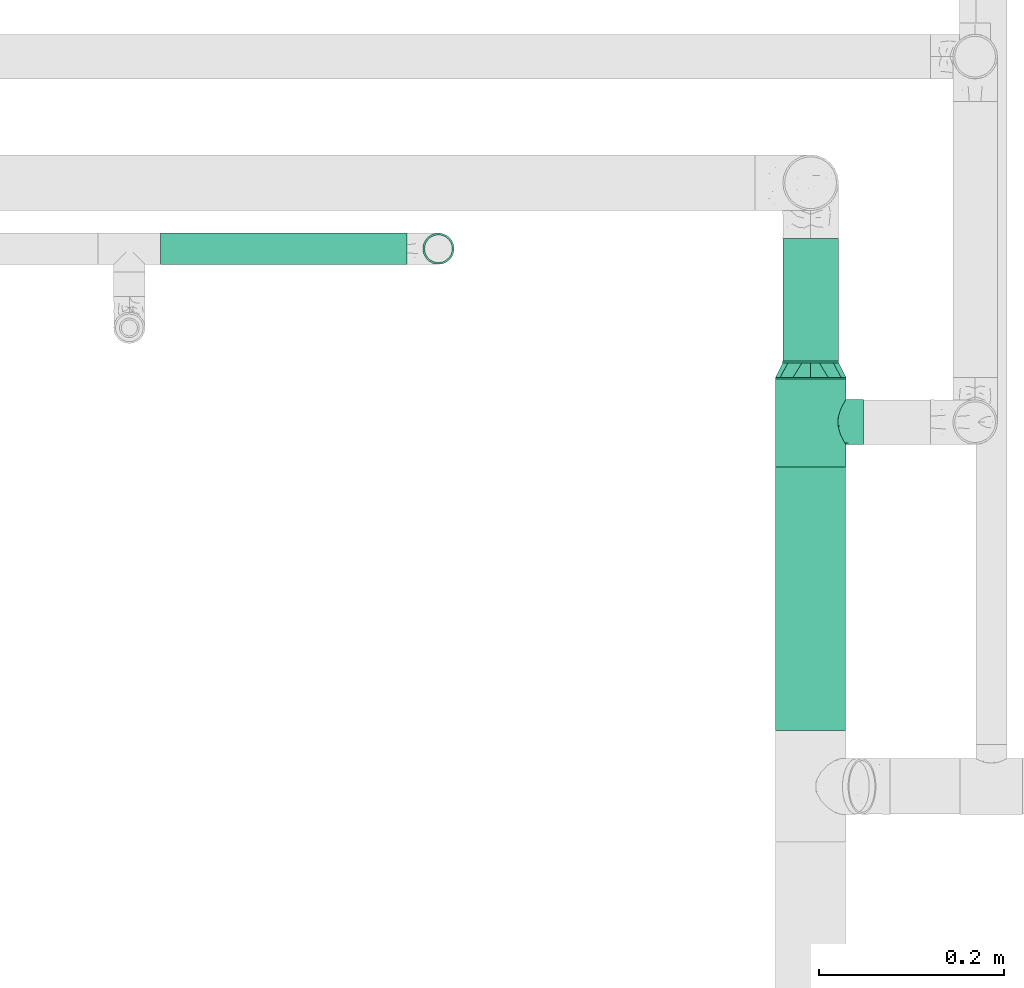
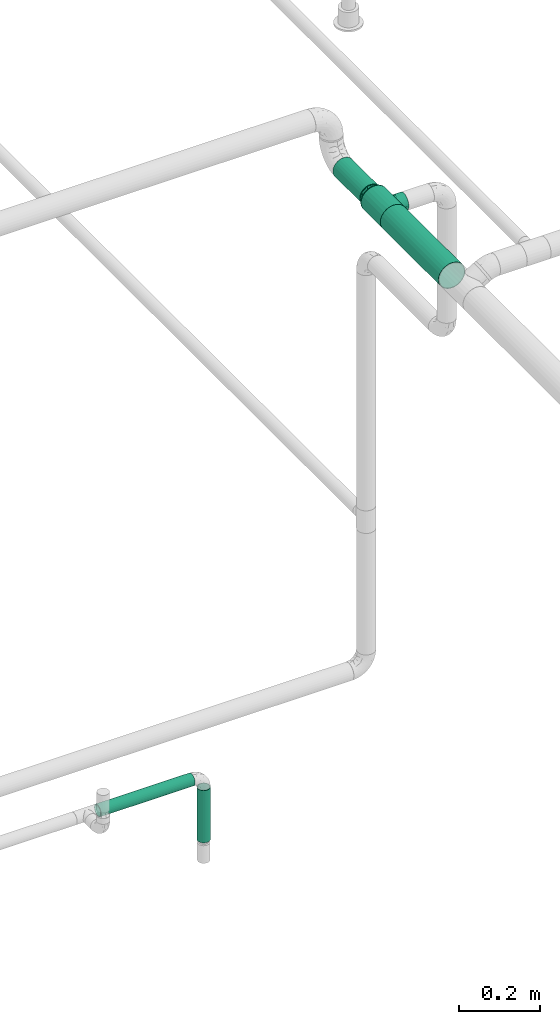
# One storey, part 18 of 95: 4 flow segments, 2 flow fittings.
"""IFC2X3 building model written with IfcOpenShell, lengths in millimetres."""

from ifc_helpers import new_model, entity, si_unit, converted_unit, derived_unit, direction, frame, origin_with_axes, origin_2d_with_axis, place, context, subcontext, project, spatial, hollow_circle, extrude, open_shell, surface_model, source, transform, mapped, type_object, element, save


model = new_model("IFC2X3")

# Units and contexts
model_context = context("Model", 3, precision=0.01, world=frame((0.0, 4.29681676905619e-09, 0.0)), true_north=direction((4.01073788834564e-13, 1.0)))
plan_context = context("Plan", 3, precision=0.01, world=frame((0.0, 4.29681676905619e-09, 0.0)), true_north=direction((4.01073788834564e-13, 1.0)))
body_context = subcontext(model_context, "Body", "Model", "MODEL_VIEW")
ifc_project = project(units=[converted_unit("PLANEANGLEUNIT", "DEGREE", entity("IfcPositiveLengthMeasure", 0.0174532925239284), si_unit("PLANEANGLEUNIT", "RADIAN"), dimensions=[0, 0, 0, 0, 0, 0, 0]), si_unit("AREAUNIT", "SQUARE_METRE"), si_unit("LENGTHUNIT", "METRE", prefix="MILLI"), si_unit("MASSUNIT", "GRAM", prefix="KILO"), si_unit("POWERUNIT", "WATT"), si_unit("PRESSUREUNIT", "PASCAL"), si_unit("FORCEUNIT", "NEWTON", prefix="KILO"), si_unit("ELECTRICVOLTAGEUNIT", "VOLT"), si_unit("ELECTRICCURRENTUNIT", "AMPERE"), si_unit("THERMODYNAMICTEMPERATUREUNIT", "DEGREE_CELSIUS"), si_unit("TIMEUNIT", "SECOND"), si_unit("VOLUMEUNIT", "CUBIC_METRE"), derived_unit("LINEARVELOCITYUNIT", [(si_unit("LENGTHUNIT", "METRE"), 1), (si_unit("TIMEUNIT", "SECOND"), -1)]), derived_unit("VOLUMETRICFLOWRATEUNIT", [(si_unit("VOLUMEUNIT", "CUBIC_METRE"), 1), (si_unit("TIMEUNIT", "SECOND"), -1)]), derived_unit("THERMALTRANSMITTANCEUNIT", [(si_unit("POWERUNIT", "WATT"), 1), (si_unit("THERMODYNAMICTEMPERATUREUNIT", "KELVIN"), -1), (si_unit("AREAUNIT", "SQUARE_METRE"), -1)]), derived_unit("SOUNDPRESSUREUNIT", [(si_unit("PRESSUREUNIT", "PASCAL"), 1)])], contexts=[model_context, plan_context])

# Site, building, storey
site_placement = place(None, frame((0.0, -4.29681676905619e-09, 0.0), z_axis=(0.0, 0.0, 1.0), x_axis=(1.0, 0.0, 0.0)))
site = spatial("IfcSite", under=ifc_project, at=site_placement, CompositionType="ELEMENT")
building_placement = place(site_placement, frame((0.0, 4.29681676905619e-09, 0.0), z_axis=(0.0, 0.0, 1.0), x_axis=(1.0, 0.0, 0.0)))
building = spatial("IfcBuilding", under=site, at=building_placement, Name="mc-building", CompositionType="ELEMENT")
storey_placement = place(building_placement, frame((0.0, 0.0, 210900.0), z_axis=(0.0, 0.0, 1.0), x_axis=(1.0, 0.0, 0.0)))
storey = spatial("IfcBuildingStorey", under=building, at=storey_placement, Name="Nivå F", CompositionType="ELEMENT", Elevation=210900.0)

# Flow fittings
pipe_fitting_type_1 = type_object("IfcPipeFittingType", Name="magi_pipe_fe_reducer_centric_short_NOR", PredefinedType="TRANSITION")
shared_shape_1 = source(origin_with_axes(), body_context, "Body", "SurfaceModel", [
    surface_model("IfcShellBasedSurfaceModel", [(-2.0, 9.86101, 36.80177), (-2.0, -38.1, 0.0), (-2.0, 0.0, 38.1), (-2.0, 26.94077, 26.94077), (-2.0, 19.05, 32.99557), (-2.0, 32.99557, 19.05), (-2.0, 36.80177, 9.86101), (-2.0, -9.86101, 36.80177), (-2.0, -26.94077, 26.94077), (-2.0, -19.05, 32.99557), (-2.0, -32.99557, 19.05), (-2.0, -36.80177, 9.86101), (-2.0, 36.80177, -9.86101), (-2.0, -32.99557, -19.05), (-2.0, 9.86101, -36.80177), (-2.0, 32.99557, -19.05), (-2.0, 26.94077, -26.94077), (-2.0, 19.05, -32.99557), (-2.0, -26.94077, -26.94077), (-2.0, -36.80177, -9.86101), (-2.0, -19.05, -32.99557), (-2.0, 0.0, -38.1), (-2.0, -9.86101, -36.80177), (-2.0, 38.1, 0.0), (0.0, 9.86101, -36.80177), (0.0, 19.05, -32.99557), (0.0, 26.94077, -26.94077), (0.0, 36.80177, -9.86101), (0.0, -26.94077, -26.94077), (0.0, 32.99557, -19.05), (0.0, -38.1, 0.0), (0.0, 0.0, -38.1), (0.0, -19.05, -32.99557), (0.0, -9.86101, -36.80177), (0.0, -32.99557, -19.05), (0.0, -36.80177, -9.86101), (0.0, 38.1, 0.0), (0.0, 36.80177, 9.86101), (0.0, 32.99557, 19.05), (0.0, 26.94077, 26.94077), (0.0, 0.0, 38.1), (0.0, 9.86101, 36.80177), (0.0, 19.05, 32.99557), (0.0, -9.86101, 36.80177), (0.0, -32.99557, 19.05), (0.0, -36.80177, 9.86101), (0.0, -26.94077, 26.94077), (0.0, -19.05, 32.99557), (17.8, 7.81634, -29.17096), (17.8, 15.1, -26.15397), (17.8, 21.35462, -21.35462), (17.8, 30.2, 0.0), (17.8, 26.15397, -15.1), (17.8, 29.17096, -7.81634), (17.8, -15.1, -26.15397), (17.8, -29.17096, 7.81634), (17.8, 0.0, -30.2), (17.8, -7.81634, -29.17096), (17.8, -21.35462, -21.35462), (17.8, -29.17096, -7.81634), (17.8, -26.15397, -15.1), (17.8, 29.17096, 7.81634), (17.8, 26.15397, 15.1), (17.8, 21.35462, 21.35462), (17.8, -21.35462, 21.35462), (17.8, 15.1, 26.15397), (17.8, 7.81634, 29.17096), (17.8, 0.0, 30.2), (17.8, -26.15397, 15.1), (17.8, -30.2, 0.0), (17.8, -7.81634, 29.17096), (17.8, -15.1, 26.15397), (15.8, 0.0, 30.2), (15.8, 7.81634, 29.17096), (15.8, 15.1, 26.15397), (15.8, 21.35462, 21.35462), (15.8, 26.15397, 15.1), (15.8, 29.17096, 7.81634), (15.8, -29.17096, 7.81634), (15.8, 30.2, 0.0), (15.8, -7.81634, 29.17096), (15.8, -21.35462, 21.35462), (15.8, -15.1, 26.15397), (15.8, -26.15397, 15.1), (15.8, -30.2, 0.0), (15.8, 29.17096, -7.81634), (15.8, 26.15397, -15.1), (15.8, 21.35462, -21.35462), (15.8, 15.1, -26.15397), (15.8, 7.81634, -29.17096), (15.8, -15.1, -26.15397), (15.8, -29.17096, -7.81634), (15.8, -21.35462, -21.35462), (15.8, -26.15397, -15.1), (15.8, 0.0, -30.2), (15.8, -7.81634, -29.17096), (15.8, -9.33231, 28.72191), (15.8, -24.43231, 17.75111), (15.8, 9.33231, 28.72191), (15.8, 24.43231, 17.75111), (15.8, -9.33231, -28.72191), (15.8, -24.43231, -17.75111), (15.8, 9.33231, -28.72191), (15.8, 24.43231, -17.75111), (15.8, 27.31616, -8.87556), (15.8, 16.88231, -23.23651), (0.0, 35.64327, -9.16863), (0.0, 26.02278, -26.02278), (0.0, -35.64327, -9.16863), (15.8, -16.88231, -23.23651), (15.8, -27.31616, -8.87556), (0.0, -26.02278, -26.02278), (15.8, 0.0, -28.72191), (0.0, 9.525, -35.54778), (0.0, -9.525, -35.54778), (15.8, -27.31616, 8.87556), (15.8, -16.88231, 23.23651), (0.0, -35.64327, 9.16863), (0.0, -26.02278, 26.02278), (0.0, 35.64327, 9.16863), (15.8, 16.88231, 23.23651), (15.8, 27.31616, 8.87556), (0.0, 26.02278, 26.02278), (15.8, 0.0, 28.72191), (0.0, -9.525, 35.54778), (0.0, 9.525, 35.54778)], [open_shell([[[0, 1, 2]], [[3, 0, 4]], [[3, 5, 6]], [[3, 6, 0]], [[1, 0, 6]], [[7, 8, 9]], [[8, 7, 10]], [[10, 1, 11]], [[1, 10, 7]], [[7, 2, 1]], [[6, 12, 1]], [[13, 1, 12]], [[14, 12, 15]], [[16, 17, 14]], [[16, 14, 15]], [[13, 12, 14]], [[14, 18, 13]], [[19, 1, 13]], [[20, 21, 22]], [[20, 18, 14]], [[20, 14, 21]], [[6, 23, 12]], [[24, 25, 26]], [[24, 26, 27]], [[24, 27, 28]], [[27, 26, 29]], [[28, 27, 30]], [[31, 32, 33]], [[31, 24, 32]], [[28, 32, 24]], [[28, 30, 34]], [[34, 30, 35]], [[27, 36, 37]], [[37, 38, 39]], [[37, 39, 40]], [[41, 40, 39]], [[41, 39, 42]], [[37, 40, 43]], [[30, 44, 45]], [[44, 30, 43]], [[46, 43, 47]], [[43, 46, 44]], [[30, 37, 43]], [[37, 30, 27]], [[19, 35, 1]], [[13, 34, 19]], [[32, 18, 20]], [[13, 18, 28]], [[33, 20, 22]], [[19, 34, 35]], [[35, 30, 1]], [[33, 32, 20]], [[28, 18, 32]], [[28, 34, 13]], [[31, 33, 22]], [[22, 21, 31]], [[14, 24, 21]], [[17, 25, 14]], [[29, 16, 15]], [[17, 16, 26]], [[27, 15, 12]], [[17, 26, 25]], [[25, 24, 14]], [[36, 27, 12]], [[29, 15, 27]], [[29, 26, 16]], [[23, 36, 12]], [[21, 24, 31]], [[6, 37, 23]], [[5, 38, 6]], [[42, 3, 4]], [[5, 3, 39]], [[41, 4, 0]], [[6, 38, 37]], [[37, 36, 23]], [[41, 42, 4]], [[39, 3, 42]], [[39, 38, 5]], [[40, 41, 0]], [[0, 2, 40]], [[7, 43, 2]], [[9, 47, 7]], [[44, 8, 10]], [[9, 8, 46]], [[45, 10, 11]], [[9, 46, 47]], [[47, 43, 7]], [[30, 45, 11]], [[44, 10, 45]], [[44, 46, 8]], [[1, 30, 11]], [[2, 43, 40]], [[29, 25, 38]], [[30, 32, 34]], [[30, 31, 32]], [[36, 29, 38]], [[48, 49, 50]], [[48, 50, 51]], [[52, 53, 51]], [[52, 51, 50]], [[54, 48, 55]], [[56, 54, 57]], [[56, 48, 54]], [[58, 59, 60]], [[59, 58, 54]], [[54, 55, 59]], [[55, 48, 51]], [[61, 62, 63]], [[51, 63, 64]], [[65, 66, 67]], [[64, 63, 65]], [[64, 65, 67]], [[55, 64, 68]], [[69, 59, 55]], [[64, 70, 71]], [[55, 51, 64]], [[70, 64, 67]], [[61, 63, 51]], [[72, 73, 74]], [[72, 74, 75]], [[75, 76, 77]], [[72, 75, 78]], [[79, 78, 75]], [[80, 81, 82]], [[80, 72, 81]], [[81, 78, 83]], [[72, 78, 81]], [[78, 79, 84]], [[79, 75, 77]], [[79, 85, 86]], [[79, 86, 87]], [[87, 88, 89]], [[87, 89, 79]], [[89, 90, 84]], [[91, 92, 93]], [[92, 91, 90]], [[90, 94, 95]], [[91, 84, 90]], [[89, 94, 90]], [[84, 79, 89]], [[91, 59, 84]], [[93, 60, 91]], [[54, 92, 90]], [[93, 92, 58]], [[57, 90, 95]], [[91, 60, 59]], [[59, 69, 84]], [[57, 54, 90]], [[58, 92, 54]], [[58, 60, 93]], [[56, 57, 95]], [[95, 94, 56]], [[89, 48, 94]], [[88, 49, 89]], [[52, 87, 86]], [[88, 87, 50]], [[53, 86, 85]], [[88, 50, 49]], [[49, 48, 89]], [[51, 53, 85]], [[52, 86, 53]], [[52, 50, 87]], [[79, 51, 85]], [[94, 48, 56]], [[77, 61, 79]], [[76, 62, 77]], [[65, 75, 74]], [[76, 75, 63]], [[66, 74, 73]], [[77, 62, 61]], [[61, 51, 79]], [[66, 65, 74]], [[63, 75, 65]], [[63, 62, 76]], [[67, 66, 73]], [[73, 72, 67]], [[80, 70, 72]], [[82, 71, 80]], [[68, 81, 83]], [[82, 81, 64]], [[55, 83, 78]], [[82, 64, 71]], [[71, 70, 80]], [[69, 55, 78]], [[68, 83, 55]], [[68, 64, 81]], [[84, 69, 78]], [[72, 70, 67]], [[96, 97, 98]], [[98, 79, 99]], [[79, 98, 97]], [[97, 100, 79]], [[100, 97, 101]], [[102, 103, 79]], [[79, 100, 102]], [[97, 84, 101]], [[40, 42, 38]], [[40, 38, 44]], [[40, 44, 47]], [[44, 38, 30]], [[38, 25, 30]], [[25, 31, 30]], [[29, 104, 103]], [[105, 102, 25]], [[79, 106, 36]], [[107, 103, 105]], [[84, 30, 108]], [[106, 79, 104]], [[32, 100, 109]], [[105, 25, 107]], [[29, 103, 107]], [[29, 106, 104]], [[34, 110, 108]], [[108, 110, 84]], [[101, 34, 111]], [[112, 113, 102]], [[100, 32, 114]], [[113, 112, 31]], [[109, 101, 111]], [[101, 110, 34]], [[32, 109, 111]], [[100, 114, 112]], [[112, 114, 31]], [[113, 25, 102]], [[44, 115, 97]], [[116, 96, 47]], [[84, 117, 30]], [[118, 97, 116]], [[79, 36, 119]], [[117, 84, 115]], [[42, 98, 120]], [[116, 47, 118]], [[44, 97, 118]], [[44, 117, 115]], [[38, 121, 119]], [[119, 121, 79]], [[99, 38, 122]], [[123, 124, 96]], [[98, 42, 125]], [[124, 123, 40]], [[120, 99, 122]], [[99, 121, 38]], [[42, 120, 122]], [[98, 125, 123]], [[123, 125, 40]], [[124, 47, 96]]])]),
])
flow_fitting_1_placement = place(storey_placement, frame((522602.92009, 451280.80627, 4274.84456), z_axis=(0.0, 0.0, 1.0), x_axis=(0.0, 1.0, 0.0)))
element("IfcFlowFitting", 1, at=flow_fitting_1_placement, inside=storey, type_object=pipe_fitting_type_1, Name="magi_pipe_fe_reducer_centric_short_NOR", context=body_context, shape_type="MappedRepresentation", body=[
    mapped(shared_shape_1, transform((0.0, 0.0, 0.0), scale=1.0)),
])
pipe_fitting_type_2 = type_object("IfcPipeFittingType", Name="magi_pipe_fe_tee_centric_90_NOR", PredefinedType="JUNCTION")
shared_shape_2 = source(origin_with_axes(), body_context, "Body", "SurfaceModel", [
    surface_model("IfcShellBasedSurfaceModel", [(-48.4, 9.86101, -36.80177), (-48.4, 0.0, -38.1), (-48.4, 36.80177, -9.86101), (-48.4, 19.05, -32.99557), (-48.4, 32.99557, -19.05), (-48.4, 26.94077, -26.94077), (-48.4, -38.1, 0.0), (-48.4, -19.05, -32.99557), (-48.4, -26.94077, -26.94077), (-48.4, -9.86101, -36.80177), (-48.4, -32.99557, -19.05), (-48.4, -36.80177, -9.86101), (-48.4, 38.1, 0.0), (-48.4, 32.99557, 19.05), (-48.4, 36.80177, 9.86101), (-48.4, -36.80177, 9.86101), (-48.4, 19.05, 32.99557), (-48.4, 26.94077, 26.94077), (-48.4, 9.86101, 36.80177), (-48.4, 0.0, 38.1), (-48.4, -26.94077, 26.94077), (-48.4, -32.99557, 19.05), (-48.4, -9.86101, 36.80177), (-48.4, -19.05, 32.99557), (48.4, 0.0, -38.1), (48.4, 9.86101, -36.80177), (48.4, 19.05, -32.99557), (48.4, 26.94077, -26.94077), (48.4, 32.99557, -19.05), (48.4, 36.80177, -9.86101), (48.4, -26.94077, -26.94077), (48.4, -38.1, 0.0), (48.4, -9.86101, -36.80177), (48.4, -19.05, -32.99557), (48.4, -32.99557, -19.05), (48.4, -36.80177, -9.86101), (48.4, 36.80177, 9.86101), (48.4, 32.99557, 19.05), (48.4, 19.05, 32.99557), (48.4, 0.0, 38.1), (48.4, 26.94077, 26.94077), (48.4, 9.86101, 36.80177), (48.4, -32.99557, 19.05), (48.4, -26.94077, 26.94077), (48.4, -36.80177, 9.86101), (48.4, -19.05, 32.99557), (48.4, -9.86101, 36.80177), (48.4, 38.1, 0.0), (22.67163, -37.14799, 8.46387), (24.2, -38.1, 0.0), (18.4612, -34.73882, 15.64686), (12.20123, -31.85656, 20.89904), (4.31503, -29.74205, 23.81219), (48.4, -34.89867, 14.4555), (-18.46661, -34.7417, 15.64047), (-48.4, -34.89867, 14.4555), (-24.2, -38.1, 0.0), (-22.67247, -37.1485, 8.46164), (-12.20341, -31.85739, 20.89777), (-4.32227, -29.7431, 23.81088), (12.20123, -31.85656, -20.89904), (-18.46661, -34.7417, -15.64047), (-48.4, -34.89867, -14.4555), (4.31503, -29.74205, -23.81219), (18.4612, -34.73882, -15.64686), (22.67163, -37.14799, -8.46387), (48.4, -34.89867, -14.4555), (-4.32227, -29.7431, -23.81088), (-12.20341, -31.85739, -20.89777), (-22.67247, -37.1485, -8.46164), (0.0, -57.15, -24.2), (6.26342, -57.15, -23.37541), (12.1, -57.15, -20.95781), (12.1, -57.15, 20.95781), (17.11198, -57.15, -17.11198), (20.95781, -57.15, -12.1), (23.37541, -57.15, -6.26342), (-12.1, -57.15, -20.95781), (-20.95781, -57.15, -12.1), (-17.11198, -57.15, -17.11198), (-6.26342, -57.15, -23.37541), (-23.37541, -57.15, -6.26342), (-24.2, -57.15, 0.0), (24.2, -57.15, 0.0), (23.37541, -57.15, 6.26342), (20.95781, -57.15, 12.1), (-23.37541, -57.15, 6.26342), (17.11198, -57.15, 17.11198), (6.26342, -57.15, 23.37541), (-17.11198, -57.15, 17.11198), (-20.95781, -57.15, 12.1), (-12.1, -57.15, 20.95781), (0.0, -57.15, 24.2), (-6.26342, -57.15, 23.37541), (-23.43623, -37.62425, 4.23082), (-0.00362, -29.74257, 23.81153), (8.25813, -30.7993, 22.35562), (23.43582, -37.62399, 4.23193), (23.43582, -37.62399, -4.23193), (-23.43623, -37.62425, -4.23082), (8.25813, -30.7993, -22.35562), (-0.00362, -29.74257, -23.81153)], [open_shell([[[0, 1, 2]], [[3, 0, 2]], [[2, 4, 5]], [[3, 2, 5]], [[6, 2, 1]], [[7, 8, 9]], [[8, 1, 9]], [[10, 11, 8]], [[6, 8, 11]], [[8, 6, 1]], [[6, 12, 2]], [[13, 14, 12]], [[13, 12, 15]], [[16, 13, 15]], [[17, 13, 16]], [[18, 16, 19]], [[20, 19, 21]], [[16, 15, 21]], [[22, 19, 23]], [[20, 23, 19]], [[21, 19, 16]], [[6, 15, 12]], [[24, 25, 26]], [[24, 26, 27]], [[27, 28, 29]], [[24, 27, 30]], [[31, 27, 29]], [[32, 30, 33]], [[32, 24, 30]], [[34, 31, 35]], [[31, 34, 30]], [[27, 31, 30]], [[29, 36, 31]], [[36, 37, 31]], [[31, 37, 38]], [[38, 39, 31]], [[38, 37, 40]], [[39, 38, 41]], [[42, 39, 43]], [[44, 31, 42]], [[45, 39, 46]], [[39, 45, 43]], [[39, 42, 31]], [[36, 29, 47]], [[31, 44, 48]], [[48, 49, 31]], [[44, 50, 48]], [[42, 43, 51]], [[51, 50, 42]], [[52, 51, 43]], [[43, 20, 52]], [[42, 50, 53]], [[54, 21, 55]], [[56, 57, 6]], [[15, 6, 57]], [[57, 54, 15]], [[58, 59, 20]], [[58, 21, 54]], [[21, 58, 20]], [[54, 55, 15]], [[59, 52, 20]], [[50, 44, 53]], [[43, 23, 20]], [[19, 46, 39]], [[22, 45, 46]], [[18, 39, 41]], [[37, 36, 14]], [[17, 38, 40]], [[13, 40, 37]], [[41, 38, 16]], [[12, 36, 47]], [[23, 45, 22]], [[22, 46, 19]], [[18, 19, 39]], [[41, 16, 18]], [[16, 38, 17]], [[13, 17, 40]], [[14, 13, 37]], [[36, 12, 14]], [[45, 23, 43]], [[12, 47, 29]], [[28, 27, 4]], [[2, 29, 28]], [[24, 32, 9]], [[0, 26, 25]], [[1, 25, 24]], [[26, 3, 27]], [[7, 32, 33]], [[4, 27, 5]], [[12, 29, 2]], [[2, 28, 4]], [[5, 27, 3]], [[26, 0, 3]], [[1, 0, 25]], [[9, 1, 24]], [[32, 7, 9]], [[33, 8, 7]], [[30, 34, 60]], [[61, 11, 62]], [[60, 63, 30]], [[34, 64, 60]], [[30, 63, 8]], [[35, 31, 65]], [[65, 64, 35]], [[49, 65, 31]], [[35, 64, 66]], [[67, 68, 8]], [[64, 34, 66]], [[10, 8, 68]], [[68, 61, 10]], [[67, 8, 63]], [[61, 69, 11]], [[69, 6, 11]], [[6, 69, 56]], [[61, 62, 10]], [[30, 8, 33]], [[70, 71, 72]], [[73, 70, 72]], [[74, 75, 76]], [[74, 76, 72]], [[73, 77, 70]], [[77, 78, 79]], [[77, 80, 70]], [[77, 81, 78]], [[81, 77, 82]], [[77, 73, 82]], [[83, 72, 76]], [[83, 84, 85]], [[83, 85, 73]], [[73, 86, 82]], [[73, 85, 87]], [[86, 73, 88]], [[86, 89, 90]], [[86, 88, 89]], [[91, 92, 93]], [[92, 91, 89]], [[88, 92, 89]], [[73, 72, 83]], [[86, 94, 82]], [[54, 90, 89]], [[86, 90, 57]], [[89, 91, 58]], [[94, 56, 82]], [[57, 90, 54]], [[58, 93, 59]], [[58, 54, 89]], [[92, 52, 95]], [[58, 91, 93]], [[73, 96, 88]], [[97, 83, 49]], [[86, 57, 94]], [[88, 52, 92]], [[48, 85, 84]], [[97, 48, 84]], [[85, 50, 87]], [[92, 59, 93]], [[96, 52, 88]], [[73, 51, 96]], [[73, 87, 51]], [[51, 87, 50]], [[50, 85, 48]], [[83, 97, 84]], [[95, 59, 92]], [[76, 98, 83]], [[64, 75, 74]], [[99, 69, 81]], [[76, 75, 65]], [[74, 72, 60]], [[98, 49, 83]], [[65, 75, 64]], [[71, 63, 100]], [[60, 64, 74]], [[70, 67, 101]], [[70, 63, 71]], [[100, 60, 72]], [[100, 72, 71]], [[76, 65, 98]], [[68, 77, 79]], [[68, 80, 77]], [[69, 78, 81]], [[79, 78, 61]], [[99, 82, 56]], [[67, 70, 80]], [[80, 68, 67]], [[101, 63, 70]], [[68, 79, 61]], [[61, 78, 69]], [[82, 99, 81]]])]),
])
flow_fitting_2_placement = place(storey_placement, frame((522602.92009, 451232.40627, 4274.84456), z_axis=(0.0, 0.0, -1.0), x_axis=(0.0, -1.0, 0.0)))
element("IfcFlowFitting", 2, at=flow_fitting_2_placement, inside=storey, type_object=pipe_fitting_type_2, Name="magi_pipe_fe_tee_centric_90_NOR", context=body_context, shape_type="MappedRepresentation", body=[
    mapped(shared_shape_2, transform((0.0, 0.0, 0.0), scale=1.0)),
])

# Flow segments
pipe_segment_type = type_object("IfcPipeSegmentType", Name="Stålrør normaltykke", PredefinedType="RIGIDSEGMENT")
shared_shape_3 = source(origin_with_axes(), body_context, "Body", "SweptSolid", [
    extrude(hollow_circle(Radius=16.9, WallThickness=2.0, at=origin_2d_with_axis()), frame((0.0, 0.0, 0.0), z_axis=(1.0, 0.0, 0.0), x_axis=(0.0, 1.0, 0.0)), (0.0, 0.0, 1.0), 266.8),
])
flow_segment_1_placement = place(storey_placement, frame((521899.21856, 451420.05824, 2600.0), z_axis=(0.0, 0.0, 1.0), x_axis=(1.0, 0.0, 0.0)))
element("IfcFlowSegment", 3, at=flow_segment_1_placement, inside=storey, type_object=pipe_segment_type, Name="Stålrør normaltykke", context=body_context, shape_type="MappedRepresentation", body=[
    mapped(shared_shape_3, transform((0.0, 0.0, 0.0), scale=1.0)),
])
shared_shape_4 = source(origin_with_axes(), body_context, "Body", "SweptSolid", [
    extrude(hollow_circle(Radius=16.9, WallThickness=2.0, at=origin_2d_with_axis()), frame((0.0, 0.0, 0.0), z_axis=(1.0, 0.0, 0.0), x_axis=(0.0, 1.0, 0.0)), (0.0, 0.0, 1.0), 156.8),
])
flow_segment_2_placement = place(storey_placement, frame((522200.0, 451420.05824, 2566.20000000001), z_axis=(0.0, 1.0, 0.0), x_axis=(0.0, 0.0, -1.0)))
element("IfcFlowSegment", 4, at=flow_segment_2_placement, inside=storey, type_object=pipe_segment_type, Name="Stålrør normaltykke", context=body_context, shape_type="MappedRepresentation", body=[
    mapped(shared_shape_4, transform((0.0, 0.0, 0.0), scale=1.0)),
])
shared_shape_5 = source(origin_with_axes(), body_context, "Body", "SweptSolid", [
    extrude(hollow_circle(Radius=30.1, WallThickness=2.0, at=origin_2d_with_axis()), frame((0.0, 0.0, 0.0), z_axis=(1.0, 0.0, 0.0), x_axis=(0.0, 1.0, 0.0)), (0.0, 0.0, 1.0), 134.5),
])
flow_segment_3_placement = place(storey_placement, frame((522602.92009, 451296.60627, 4274.84456), z_axis=(0.0, 0.0, 1.0), x_axis=(0.0, 1.0, 0.0)))
element("IfcFlowSegment", 5, at=flow_segment_3_placement, inside=storey, type_object=pipe_segment_type, Name="Stålrør normaltykke", context=body_context, shape_type="MappedRepresentation", body=[
    mapped(shared_shape_5, transform((0.0, 0.0, 0.0), scale=1.0)),
])
shared_shape_6 = source(origin_with_axes(), body_context, "Body", "SweptSolid", [
    extrude(hollow_circle(Radius=38.0, WallThickness=2.0, at=origin_2d_with_axis()), frame((0.0, 0.0, 0.0), z_axis=(1.0, 0.0, 0.0), x_axis=(0.0, 1.0, 0.0)), (0.0, 0.0, 1.0), 285.6),
])
flow_segment_4_placement = place(storey_placement, frame((522602.92009, 450898.4, 4274.84456), z_axis=(0.0, 0.0, 1.0), x_axis=(0.0, 1.0, 0.0)))
element("IfcFlowSegment", 6, at=flow_segment_4_placement, inside=storey, type_object=pipe_segment_type, Name="Stålrør normaltykke", context=body_context, shape_type="MappedRepresentation", body=[
    mapped(shared_shape_6, transform((0.0, 0.0, 0.0), scale=1.0)),
])

save(model, "model.ifc")
